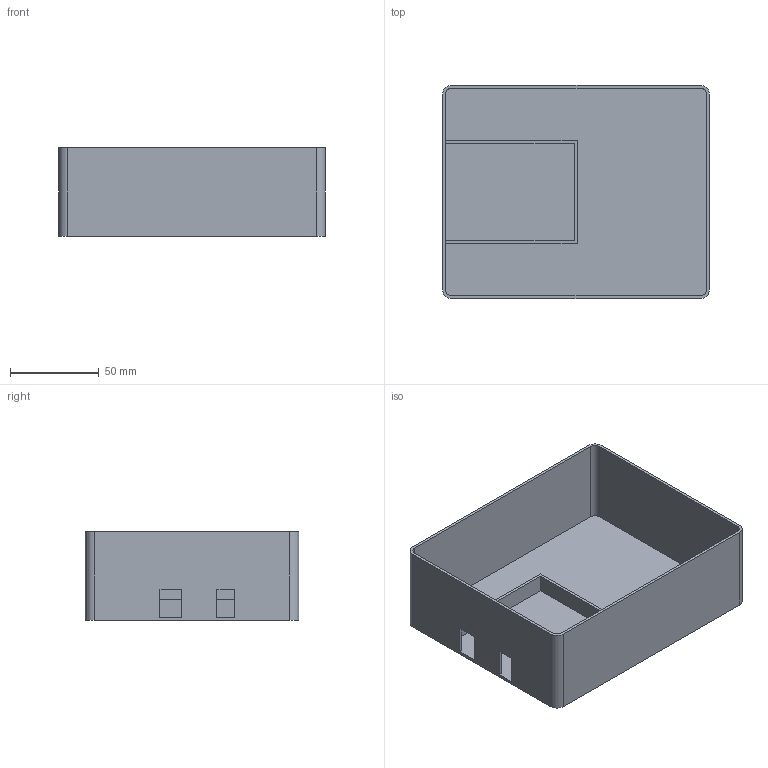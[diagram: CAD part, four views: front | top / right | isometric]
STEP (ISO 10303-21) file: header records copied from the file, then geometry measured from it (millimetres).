
FILE_DESCRIPTION (( 'STEP AP214' ), '1' );
FILE_NAME ('Part2.STEP', '2023-04-22T17:27:07', ( '' ), ( '' ), 'SwSTEP 2.0', 'SolidWorks 2021', '' );
FILE_SCHEMA (( 'AUTOMOTIVE_DESIGN' ));
Length unit declared in the file: millimetre
Products named in the file (1): Part2
Bounding box: 150 x 120 x 50 mm (x, y, z)
Volume: 72201.3 mm3; surface area: 91274.6 mm2
Topology: 1 solids, 1 shells, 41 faces, 120 edges, 80 vertices
Faces by surface type: plane 33, cylinder 8
Entity records: 1400 total; most frequent: CARTESIAN_POINT 242, ORIENTED_EDGE 240, DIRECTION 220, EDGE_CURVE 120, VECTOR 104, LINE 104, VERTEX_POINT 80, AXIS2_PLACEMENT_3D 58
